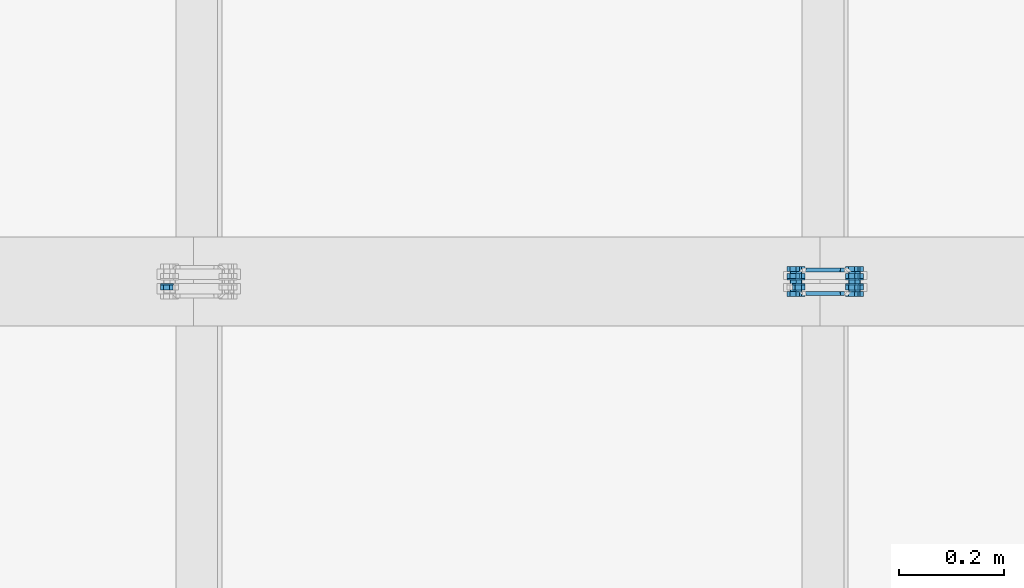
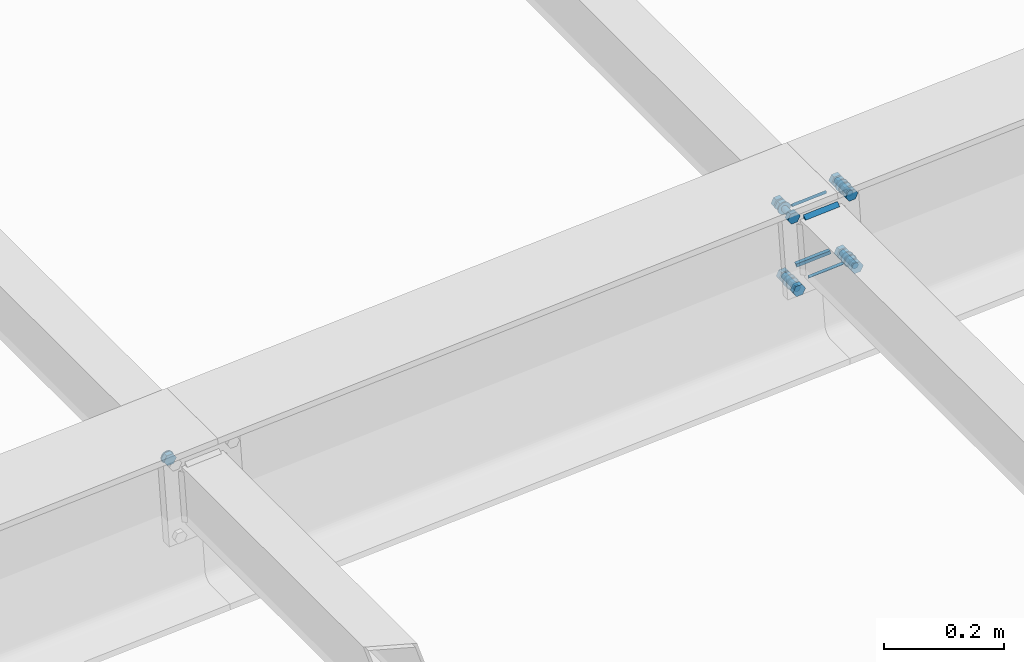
# One storey, part 59 of 72: 31 mechanical fasteners, 8 fasteners.
"""IFC4 building model written with IfcOpenShell, lengths in metres."""

from ifc_helpers import new_model, si_unit, frame, origin_with_axes, place, context, project, spatial, polyline, outline, extrude, type_object, element, save


model = new_model("IFC4")

# Units and contexts
model_context = context("Model", 3, precision=1e-05, world=origin_with_axes())
ifc_project = project(units=[si_unit("LENGTHUNIT", "METRE"), si_unit("AREAUNIT", "SQUARE_METRE"), si_unit("VOLUMEUNIT", "CUBIC_METRE"), si_unit("MASSUNIT", "GRAM", prefix="KILO"), si_unit("TIMEUNIT", "SECOND"), si_unit("PLANEANGLEUNIT", "RADIAN"), si_unit("SOLIDANGLEUNIT", "STERADIAN"), si_unit("THERMODYNAMICTEMPERATUREUNIT", "DEGREE_CELSIUS")], contexts=[model_context])

# Site, building, storey
placement_1 = place(None, origin_with_axes())
site = spatial("IfcSite", under=ifc_project, at=placement_1, Name="Italia", CompositionType="ELEMENT")
building = spatial("IfcBuilding", under=site, at=placement_1, Name="Pensilina", CompositionType="ELEMENT")
storey = spatial("IfcBuildingStorey", under=building, at=placement_1, Name="Storey 0", CompositionType="ELEMENT", Elevation=0.0)

# Mechanical fasteners
mechanical_fastener_type_1 = type_object("IfcMechanicalFastenerType", Name="Collegamento 0304_0305", PredefinedType="BOLT")
placement_2 = place(placement_1, origin_with_axes())
mechanical_fastener_1_placement = place(placement_2, origin_with_axes())
element("IfcMechanicalFastener", 1, at=mechanical_fastener_1_placement, inside=storey, type_object=mechanical_fastener_type_1, Name="Collegamento 0304_0305", NominalDiameter=0.0119999, context=model_context, shape_type="SweptSolid", body=[
    extrude(outline(polyline([(0.0, 0.0, 0.0), (-0.0119727, 0.000808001, 0.0), (-0.0172596, 0.0115805, 0.0), (-0.0105736, 0.0215454, 0.0), (0.00139928, 0.0207376, 0.0), (0.00668597, 0.00996494, 0.0), (0.0, 0.0, 0.0)])), frame((2.15199, 15.8244, 3.84012), z_axis=(0.0, 1.0, 0.0), x_axis=(-1.0, 0.0, 0.0)), (0.0, 0.0, 1.0), 0.00959969),
])
mechanical_fastener_type_2 = type_object("IfcMechanicalFastenerType", Name="Collegamento 0304_0305", PredefinedType="BOLT")
mechanical_fastener_2_placement = place(placement_2, origin_with_axes())
element("IfcMechanicalFastener", 2, at=mechanical_fastener_2_placement, inside=storey, type_object=mechanical_fastener_type_2, Name="Collegamento 0304_0305", NominalDiameter=0.024, context=model_context, shape_type="SweptSolid", body=[
    extrude(outline(polyline([(0.0, 0.0, 0.0), (-0.000408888, -0.00310588, 0.0), (-0.00160789, -0.00600004, 0.0), (-0.00351477, -0.00848532, 0.0), (-0.00600004, -0.0103922, 0.0), (-0.00889421, -0.0115912, 0.0), (-0.0120001, -0.0120001, 0.0), (-0.015106, -0.0115912, 0.0), (-0.0180001, -0.0103922, 0.0), (-0.0204854, -0.00848532, 0.0), (-0.0223923, -0.00600004, 0.0), (-0.0235913, -0.00310588, 0.0), (-0.0240002, 0.0, 0.0), (-0.0235913, 0.00310588, 0.0), (-0.0223923, 0.00600004, 0.0), (-0.0204854, 0.00848532, 0.0), (-0.0180001, 0.0103922, 0.0), (-0.015106, 0.0115912, 0.0), (-0.0120001, 0.0120001, 0.0), (-0.00889421, 0.0115912, 0.0), (-0.00600004, 0.0103922, 0.0), (-0.00351477, 0.00848532, 0.0), (-0.00160789, 0.00600004, 0.0), (-0.000408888, 0.00310588, 0.0), (0.0, 0.0, 0.0)])), frame((2.14528, 15.834, 3.85089), z_axis=(0.0, 1.0, 0.0), x_axis=(-1.0, 0.0, 0.0)), (0.0, 0.0, 1.0), 0.00199986),
])

# Fasteners
fastener_type_1 = type_object("IfcFastenerType", Name="Collegamento 0404_0403", PredefinedType="WELD")
fastener_1_placement = place(placement_2, origin_with_axes())
element("IfcFastener", 3, at=fastener_1_placement, inside=storey, type_object=fastener_type_1, Name="Collegamento 0404_0403", context=model_context, shape_type="SweptSolid", body=[
    extrude(outline(polyline([(0.0, 0.0, 0.0), (0.00717354, -0.00695825, 0.0), (0.0, -0.00695825, 0.0), (0.0, 0.0, 0.0)])), frame((3.44387, 15.8211, 3.93006), z_axis=(-0.997731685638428, 0.0, -0.067316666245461), x_axis=(0.0, -1.0, 0.0)), (0.0, 0.0, 1.0), 0.0660996),
])
fastener_type_2 = type_object("IfcFastenerType", Name="Collegamento 0404_0403", PredefinedType="WELD")
fastener_2_placement = place(placement_2, origin_with_axes())
element("IfcFastener", 4, at=fastener_2_placement, inside=storey, type_object=fastener_type_2, Name="Collegamento 0404_0403", context=model_context, shape_type="SweptSolid", body=[
    extrude(outline(polyline([(0.0, 0.0, 0.0), (-0.00717354, 0.00695801, 0.0), (0.0, 0.00695801, 0.0), (0.0, 0.0, 0.0)])), frame((3.38693, 15.8211, 3.79209), z_axis=(0.997731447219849, 0.0, 0.067320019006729), x_axis=(0.0, 1.0, 0.0)), (0.0, 0.0, 1.0), 0.0660999),
])
fastener_type_3 = type_object("IfcFastenerType", Name="Collegamento 0404_0403", PredefinedType="WELD")
fastener_3_placement = place(placement_2, origin_with_axes())
element("IfcFastener", 5, at=fastener_3_placement, inside=storey, type_object=fastener_type_3, Name="Collegamento 0404_0403", context=model_context, shape_type="SweptSolid", body=[
    extrude(outline(polyline([(0.0, 0.0, 0.0), (0.00717354, -0.00695825, 0.0), (0.0, -0.00695825, 0.0), (0.0, 0.0, 0.0)])), frame((3.44387, 15.8211, 3.93006), z_axis=(-0.997731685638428, 0.0, -0.067316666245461), x_axis=(0.0, -1.0, 0.0)), (0.0, 0.0, 1.0), 0.0660996),
])
fastener_type_4 = type_object("IfcFastenerType", Name="Collegamento 0404_0403", PredefinedType="WELD")
fastener_4_placement = place(placement_2, origin_with_axes())
element("IfcFastener", 6, at=fastener_4_placement, inside=storey, type_object=fastener_type_4, Name="Collegamento 0404_0403", context=model_context, shape_type="SweptSolid", body=[
    extrude(outline(polyline([(0.0, 0.0, 0.0), (-0.00717354, 0.00695801, 0.0), (0.0, 0.00695801, 0.0), (0.0, 0.0, 0.0)])), frame((3.38693, 15.8211, 3.79209), z_axis=(0.997731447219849, 0.0, 0.067320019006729), x_axis=(0.0, 1.0, 0.0)), (0.0, 0.0, 1.0), 0.0660999),
])

# Mechanical fasteners
mechanical_fastener_type_3 = type_object("IfcMechanicalFastenerType", Name="Collegamento 0404_0403", PredefinedType="BOLT")
mechanical_fastener_3_placement = place(placement_2, origin_with_axes())
element("IfcMechanicalFastener", 7, at=mechanical_fastener_3_placement, inside=storey, type_object=mechanical_fastener_type_3, Name="Collegamento 0404_0403", NominalDiameter=0.0119998, context=model_context, shape_type="SweptSolid", body=[
    extrude(outline(polyline([(0.0, 0.0, 0.0), (-0.0119729, -0.000808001, 0.0), (-0.0186589, 0.00915694, 0.0), (-0.0133719, 0.0199296, 0.0), (-0.00139928, 0.0207374, 0.0), (0.00528669, 0.0107725, 0.0), (0.0, 0.0, 0.0)])), frame((3.37133, 15.821, 3.77151), z_axis=(0.0, -1.0, 0.0), x_axis=(1.0, 0.0, 0.0)), (0.0, 0.0, 1.0), 0.00959969),
])
mechanical_fastener_type_4 = type_object("IfcMechanicalFastenerType", Name="Collegamento 0404_0403", PredefinedType="BOLT")
mechanical_fastener_4_placement = place(placement_2, origin_with_axes())
element("IfcMechanicalFastener", 8, at=mechanical_fastener_4_placement, inside=storey, type_object=mechanical_fastener_type_4, Name="Collegamento 0404_0403", NominalDiameter=0.012, context=model_context, shape_type="SweptSolid", body=[
    extrude(outline(polyline([(0.0, 0.0, 0.0), (-0.000204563, -0.00155282, 0.0), (-0.000803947, -0.00300002, 0.0), (-0.00175738, -0.00424266, 0.0), (-0.00300002, -0.00519609, 0.0), (-0.00444722, -0.00579548, 0.0), (-0.00600004, -0.00600004, 0.0), (-0.00755286, -0.00579548, 0.0), (-0.00900006, -0.00519609, 0.0), (-0.0102427, -0.00424266, 0.0), (-0.0111961, -0.00300002, 0.0), (-0.0117955, -0.00155282, 0.0), (-0.0120001, 0.0, 0.0), (-0.0117955, 0.00155282, 0.0), (-0.0111961, 0.00300002, 0.0), (-0.0102427, 0.00424266, 0.0), (-0.00900006, 0.00519609, 0.0), (-0.00755286, 0.00579548, 0.0), (-0.00600004, 0.00600004, 0.0), (-0.00444722, 0.00579548, 0.0), (-0.00300002, 0.00519609, 0.0), (-0.00175738, 0.00424266, 0.0), (-0.000803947, 0.00300002, 0.0), (-0.000204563, 0.00155282, 0.0), (0.0, 0.0, 0.0)])), frame((3.37064, 15.862, 3.78148), z_axis=(0.0, -1.0, 0.0), x_axis=(1.0, 0.0, 0.0)), (0.0, 0.0, 1.0), 0.0410004),
])
mechanical_fastener_type_5 = type_object("IfcMechanicalFastenerType", Name="Collegamento 0404_0403", PredefinedType="BOLT")
mechanical_fastener_5_placement = place(placement_2, origin_with_axes())
element("IfcMechanicalFastener", 9, at=mechanical_fastener_5_placement, inside=storey, type_object=mechanical_fastener_type_5, Name="Collegamento 0404_0403", NominalDiameter=0.0119998, context=model_context, shape_type="SweptSolid", body=[
    extrude(outline(polyline([(0.0, 0.0, 0.0), (-0.0119729, -0.000808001, 0.0), (-0.0186589, 0.00915694, 0.0), (-0.0133719, 0.0199296, 0.0), (-0.00139928, 0.0207374, 0.0), (0.00528669, 0.0107725, 0.0), (0.0, 0.0, 0.0)])), frame((3.37133, 15.8556, 3.77151), z_axis=(0.0, -1.0, 0.0), x_axis=(1.0, 0.0, 0.0)), (0.0, 0.0, 1.0), 0.00959969),
])
mechanical_fastener_type_6 = type_object("IfcMechanicalFastenerType", Name="Collegamento 0404_0403", PredefinedType="BOLT")
mechanical_fastener_6_placement = place(placement_2, origin_with_axes())
element("IfcMechanicalFastener", 10, at=mechanical_fastener_6_placement, inside=storey, type_object=mechanical_fastener_type_6, Name="Collegamento 0404_0403", NominalDiameter=0.024, context=model_context, shape_type="SweptSolid", body=[
    extrude(outline(polyline([(0.0, 0.0, 0.0), (-0.000408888, -0.00310588, 0.0), (-0.00160789, -0.00600004, 0.0), (-0.00351477, -0.00848532, 0.0), (-0.00600004, -0.0103922, 0.0), (-0.00889421, -0.0115912, 0.0), (-0.0120001, -0.0120001, 0.0), (-0.015106, -0.0115912, 0.0), (-0.0180001, -0.0103922, 0.0), (-0.0204854, -0.00848532, 0.0), (-0.0223923, -0.00600004, 0.0), (-0.0235913, -0.00310588, 0.0), (-0.0240002, 0.0, 0.0), (-0.0235913, 0.00310588, 0.0), (-0.0223923, 0.00600004, 0.0), (-0.0204854, 0.00848532, 0.0), (-0.0180001, 0.0103922, 0.0), (-0.015106, 0.0115912, 0.0), (-0.0120001, 0.0120001, 0.0), (-0.00889421, 0.0115912, 0.0), (-0.00600004, 0.0103922, 0.0), (-0.00351477, 0.00848532, 0.0), (-0.00160789, 0.00600004, 0.0), (-0.000408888, 0.00310588, 0.0), (0.0, 0.0, 0.0)])), frame((3.37664, 15.846, 3.78148), z_axis=(0.0, -1.0, 0.0), x_axis=(1.0, 0.0, 0.0)), (0.0, 0.0, 1.0), 0.00199986),
])
mechanical_fastener_type_7 = type_object("IfcMechanicalFastenerType", Name="Collegamento 0404_0403", PredefinedType="BOLT")
mechanical_fastener_7_placement = place(placement_2, origin_with_axes())
element("IfcMechanicalFastener", 11, at=mechanical_fastener_7_placement, inside=storey, type_object=mechanical_fastener_type_7, Name="Collegamento 0404_0403", NominalDiameter=0.0119998, context=model_context, shape_type="SweptSolid", body=[
    extrude(outline(polyline([(0.0, 0.0, 0.0), (-0.0119727, -0.000807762, 0.0), (-0.0186586, 0.00915718, 0.0), (-0.0133719, 0.0199296, 0.0), (-0.00139904, 0.0207376, 0.0), (0.00528693, 0.0107727, 0.0), (0.0, 0.0, 0.0)])), frame((3.48307, 15.821, 3.77905), z_axis=(0.0, -1.0, 0.0), x_axis=(1.0, 0.0, 0.0)), (0.0, 0.0, 1.0), 0.00959969),
])
mechanical_fastener_type_8 = type_object("IfcMechanicalFastenerType", Name="Collegamento 0404_0403", PredefinedType="BOLT")
mechanical_fastener_8_placement = place(placement_2, origin_with_axes())
element("IfcMechanicalFastener", 12, at=mechanical_fastener_8_placement, inside=storey, type_object=mechanical_fastener_type_8, Name="Collegamento 0404_0403", NominalDiameter=0.012, context=model_context, shape_type="SweptSolid", body=[
    extrude(outline(polyline([(0.0, 0.0, 0.0), (-0.000204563, -0.00155282, 0.0), (-0.000803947, -0.00300002, 0.0), (-0.00175738, -0.00424266, 0.0), (-0.00300002, -0.00519609, 0.0), (-0.00444722, -0.00579548, 0.0), (-0.00600004, -0.00600004, 0.0), (-0.00755286, -0.00579548, 0.0), (-0.00900006, -0.00519609, 0.0), (-0.0102427, -0.00424266, 0.0), (-0.0111961, -0.00300002, 0.0), (-0.0117955, -0.00155282, 0.0), (-0.0120001, 0.0, 0.0), (-0.0117955, 0.00155282, 0.0), (-0.0111961, 0.00300002, 0.0), (-0.0102427, 0.00424266, 0.0), (-0.00900006, 0.00519609, 0.0), (-0.00755286, 0.00579548, 0.0), (-0.00600004, 0.00600004, 0.0), (-0.00444722, 0.00579548, 0.0), (-0.00300002, 0.00519609, 0.0), (-0.00175738, 0.00424266, 0.0), (-0.000803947, 0.00300002, 0.0), (-0.000204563, 0.00155282, 0.0), (0.0, 0.0, 0.0)])), frame((3.48239, 15.862, 3.78902), z_axis=(0.0, -1.0, 0.0), x_axis=(1.0, 0.0, 0.0)), (0.0, 0.0, 1.0), 0.0410004),
])
mechanical_fastener_type_9 = type_object("IfcMechanicalFastenerType", Name="Collegamento 0404_0403", PredefinedType="BOLT")
mechanical_fastener_9_placement = place(placement_2, origin_with_axes())
element("IfcMechanicalFastener", 13, at=mechanical_fastener_9_placement, inside=storey, type_object=mechanical_fastener_type_9, Name="Collegamento 0404_0403", NominalDiameter=0.0119998, context=model_context, shape_type="SweptSolid", body=[
    extrude(outline(polyline([(0.0, 0.0, 0.0), (-0.0119727, -0.000807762, 0.0), (-0.0186586, 0.00915718, 0.0), (-0.0133719, 0.0199296, 0.0), (-0.00139904, 0.0207376, 0.0), (0.00528693, 0.0107727, 0.0), (0.0, 0.0, 0.0)])), frame((3.48307, 15.8556, 3.77905), z_axis=(0.0, -1.0, 0.0), x_axis=(1.0, 0.0, 0.0)), (0.0, 0.0, 1.0), 0.00959969),
])
mechanical_fastener_type_10 = type_object("IfcMechanicalFastenerType", Name="Collegamento 0404_0403", PredefinedType="BOLT")
mechanical_fastener_10_placement = place(placement_2, origin_with_axes())
element("IfcMechanicalFastener", 14, at=mechanical_fastener_10_placement, inside=storey, type_object=mechanical_fastener_type_10, Name="Collegamento 0404_0403", NominalDiameter=0.024, context=model_context, shape_type="SweptSolid", body=[
    extrude(outline(polyline([(0.0, 0.0, 0.0), (-0.000408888, -0.00310588, 0.0), (-0.00160789, -0.00600004, 0.0), (-0.00351477, -0.00848532, 0.0), (-0.00600004, -0.0103922, 0.0), (-0.00889421, -0.0115912, 0.0), (-0.0120001, -0.0120001, 0.0), (-0.015106, -0.0115912, 0.0), (-0.0180001, -0.0103922, 0.0), (-0.0204854, -0.00848532, 0.0), (-0.0223923, -0.00600004, 0.0), (-0.0235913, -0.00310588, 0.0), (-0.0240002, 0.0, 0.0), (-0.0235913, 0.00310588, 0.0), (-0.0223923, 0.00600004, 0.0), (-0.0204854, 0.00848532, 0.0), (-0.0180001, 0.0103922, 0.0), (-0.015106, 0.0115912, 0.0), (-0.0120001, 0.0120001, 0.0), (-0.00889421, 0.0115912, 0.0), (-0.00600004, 0.0103922, 0.0), (-0.00351477, 0.00848532, 0.0), (-0.00160789, 0.00600004, 0.0), (-0.000408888, 0.00310588, 0.0), (0.0, 0.0, 0.0)])), frame((3.48839, 15.846, 3.78902), z_axis=(0.0, -1.0, 0.0), x_axis=(1.0, 0.0, 0.0)), (0.0, 0.0, 1.0), 0.00199986),
])
mechanical_fastener_type_11 = type_object("IfcMechanicalFastenerType", Name="Collegamento 0404_0403", PredefinedType="BOLT")
mechanical_fastener_11_placement = place(placement_2, origin_with_axes())
element("IfcMechanicalFastener", 15, at=mechanical_fastener_11_placement, inside=storey, type_object=mechanical_fastener_type_11, Name="Collegamento 0404_0403", NominalDiameter=0.0119998, context=model_context, shape_type="SweptSolid", body=[
    extrude(outline(polyline([(0.0, 0.0, 0.0), (-0.0119729, -0.000808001, 0.0), (-0.0186589, 0.00915694, 0.0), (-0.0133719, 0.0199296, 0.0), (-0.00139928, 0.0207374, 0.0), (0.00528669, 0.0107725, 0.0), (0.0, 0.0, 0.0)])), frame((3.3611, 15.821, 3.92317), z_axis=(0.0, -1.0, 0.0), x_axis=(1.0, 0.0, 0.0)), (0.0, 0.0, 1.0), 0.00959969),
])
mechanical_fastener_type_12 = type_object("IfcMechanicalFastenerType", Name="Collegamento 0404_0403", PredefinedType="BOLT")
mechanical_fastener_12_placement = place(placement_2, origin_with_axes())
element("IfcMechanicalFastener", 16, at=mechanical_fastener_12_placement, inside=storey, type_object=mechanical_fastener_type_12, Name="Collegamento 0404_0403", NominalDiameter=0.012, context=model_context, shape_type="SweptSolid", body=[
    extrude(outline(polyline([(0.0, 0.0, 0.0), (-0.000204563, -0.00155282, 0.0), (-0.000803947, -0.00300002, 0.0), (-0.00175738, -0.00424266, 0.0), (-0.00300002, -0.00519609, 0.0), (-0.00444722, -0.00579548, 0.0), (-0.00600004, -0.00600004, 0.0), (-0.00755286, -0.00579548, 0.0), (-0.00900006, -0.00519609, 0.0), (-0.0102427, -0.00424266, 0.0), (-0.0111961, -0.00300002, 0.0), (-0.0117955, -0.00155282, 0.0), (-0.0120001, 0.0, 0.0), (-0.0117955, 0.00155282, 0.0), (-0.0111961, 0.00300002, 0.0), (-0.0102427, 0.00424266, 0.0), (-0.00900006, 0.00519609, 0.0), (-0.00755286, 0.00579548, 0.0), (-0.00600004, 0.00600004, 0.0), (-0.00444722, 0.00579548, 0.0), (-0.00300002, 0.00519609, 0.0), (-0.00175738, 0.00424266, 0.0), (-0.000803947, 0.00300002, 0.0), (-0.000204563, 0.00155282, 0.0), (0.0, 0.0, 0.0)])), frame((3.36041, 15.862, 3.93313), z_axis=(0.0, -1.0, 0.0), x_axis=(1.0, 0.0, 0.0)), (0.0, 0.0, 1.0), 0.0410004),
])
mechanical_fastener_type_13 = type_object("IfcMechanicalFastenerType", Name="Collegamento 0404_0403", PredefinedType="BOLT")
mechanical_fastener_13_placement = place(placement_2, origin_with_axes())
element("IfcMechanicalFastener", 17, at=mechanical_fastener_13_placement, inside=storey, type_object=mechanical_fastener_type_13, Name="Collegamento 0404_0403", NominalDiameter=0.0119998, context=model_context, shape_type="SweptSolid", body=[
    extrude(outline(polyline([(0.0, 0.0, 0.0), (-0.0119729, -0.000808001, 0.0), (-0.0186589, 0.00915694, 0.0), (-0.0133719, 0.0199296, 0.0), (-0.00139928, 0.0207374, 0.0), (0.00528669, 0.0107725, 0.0), (0.0, 0.0, 0.0)])), frame((3.3611, 15.8556, 3.92317), z_axis=(0.0, -1.0, 0.0), x_axis=(1.0, 0.0, 0.0)), (0.0, 0.0, 1.0), 0.00959969),
])
mechanical_fastener_type_14 = type_object("IfcMechanicalFastenerType", Name="Collegamento 0404_0403", PredefinedType="BOLT")
mechanical_fastener_14_placement = place(placement_2, origin_with_axes())
element("IfcMechanicalFastener", 18, at=mechanical_fastener_14_placement, inside=storey, type_object=mechanical_fastener_type_14, Name="Collegamento 0404_0403", NominalDiameter=0.024, context=model_context, shape_type="SweptSolid", body=[
    extrude(outline(polyline([(0.0, 0.0, 0.0), (-0.000408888, -0.00310588, 0.0), (-0.00160789, -0.00600004, 0.0), (-0.00351477, -0.00848532, 0.0), (-0.00600004, -0.0103922, 0.0), (-0.00889421, -0.0115912, 0.0), (-0.0120001, -0.0120001, 0.0), (-0.015106, -0.0115912, 0.0), (-0.0180001, -0.0103922, 0.0), (-0.0204854, -0.00848532, 0.0), (-0.0223923, -0.00600004, 0.0), (-0.0235913, -0.00310588, 0.0), (-0.0240002, 0.0, 0.0), (-0.0235913, 0.00310588, 0.0), (-0.0223923, 0.00600004, 0.0), (-0.0204854, 0.00848532, 0.0), (-0.0180001, 0.0103922, 0.0), (-0.015106, 0.0115912, 0.0), (-0.0120001, 0.0120001, 0.0), (-0.00889421, 0.0115912, 0.0), (-0.00600004, 0.0103922, 0.0), (-0.00351477, 0.00848532, 0.0), (-0.00160789, 0.00600004, 0.0), (-0.000408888, 0.00310588, 0.0), (0.0, 0.0, 0.0)])), frame((3.36641, 15.846, 3.93313), z_axis=(0.0, -1.0, 0.0), x_axis=(1.0, 0.0, 0.0)), (0.0, 0.0, 1.0), 0.00199986),
])
mechanical_fastener_type_15 = type_object("IfcMechanicalFastenerType", Name="Collegamento 0404_0403", PredefinedType="BOLT")
mechanical_fastener_15_placement = place(placement_2, origin_with_axes())
element("IfcMechanicalFastener", 19, at=mechanical_fastener_15_placement, inside=storey, type_object=mechanical_fastener_type_15, Name="Collegamento 0404_0403", NominalDiameter=0.0119998, context=model_context, shape_type="SweptSolid", body=[
    extrude(outline(polyline([(0.0, 0.0, 0.0), (-0.0119727, -0.000808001, 0.0), (-0.0186586, 0.00915694, 0.0), (-0.0133719, 0.0199294, 0.0), (-0.00139904, 0.0207374, 0.0), (0.00528693, 0.0107725, 0.0), (0.0, 0.0, 0.0)])), frame((3.47284, 15.821, 3.93071), z_axis=(0.0, -1.0, 0.0), x_axis=(1.0, 0.0, 0.0)), (0.0, 0.0, 1.0), 0.00959969),
])
mechanical_fastener_type_16 = type_object("IfcMechanicalFastenerType", Name="Collegamento 0404_0403", PredefinedType="BOLT")
mechanical_fastener_16_placement = place(placement_2, origin_with_axes())
element("IfcMechanicalFastener", 20, at=mechanical_fastener_16_placement, inside=storey, type_object=mechanical_fastener_type_16, Name="Collegamento 0404_0403", NominalDiameter=0.012, context=model_context, shape_type="SweptSolid", body=[
    extrude(outline(polyline([(0.0, 0.0, 0.0), (-0.000204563, -0.00155282, 0.0), (-0.000803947, -0.00300002, 0.0), (-0.00175738, -0.00424266, 0.0), (-0.00300002, -0.00519609, 0.0), (-0.00444722, -0.00579548, 0.0), (-0.00600004, -0.00600004, 0.0), (-0.00755286, -0.00579548, 0.0), (-0.00900006, -0.00519609, 0.0), (-0.0102427, -0.00424266, 0.0), (-0.0111961, -0.00300002, 0.0), (-0.0117955, -0.00155282, 0.0), (-0.0120001, 0.0, 0.0), (-0.0117955, 0.00155282, 0.0), (-0.0111961, 0.00300002, 0.0), (-0.0102427, 0.00424266, 0.0), (-0.00900006, 0.00519609, 0.0), (-0.00755286, 0.00579548, 0.0), (-0.00600004, 0.00600004, 0.0), (-0.00444722, 0.00579548, 0.0), (-0.00300002, 0.00519609, 0.0), (-0.00175738, 0.00424266, 0.0), (-0.000803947, 0.00300002, 0.0), (-0.000204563, 0.00155282, 0.0), (0.0, 0.0, 0.0)])), frame((3.47216, 15.862, 3.94067), z_axis=(0.0, -1.0, 0.0), x_axis=(1.0, 0.0, 0.0)), (0.0, 0.0, 1.0), 0.0410004),
])
mechanical_fastener_type_17 = type_object("IfcMechanicalFastenerType", Name="Collegamento 0404_0403", PredefinedType="BOLT")
mechanical_fastener_17_placement = place(placement_2, origin_with_axes())
element("IfcMechanicalFastener", 21, at=mechanical_fastener_17_placement, inside=storey, type_object=mechanical_fastener_type_17, Name="Collegamento 0404_0403", NominalDiameter=0.0119998, context=model_context, shape_type="SweptSolid", body=[
    extrude(outline(polyline([(0.0, 0.0, 0.0), (-0.0119727, -0.000808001, 0.0), (-0.0186586, 0.00915694, 0.0), (-0.0133719, 0.0199294, 0.0), (-0.00139904, 0.0207374, 0.0), (0.00528693, 0.0107725, 0.0), (0.0, 0.0, 0.0)])), frame((3.47284, 15.8556, 3.93071), z_axis=(0.0, -1.0, 0.0), x_axis=(1.0, 0.0, 0.0)), (0.0, 0.0, 1.0), 0.00959969),
])
mechanical_fastener_type_18 = type_object("IfcMechanicalFastenerType", Name="Collegamento 0404_0403", PredefinedType="BOLT")
mechanical_fastener_18_placement = place(placement_2, origin_with_axes())
element("IfcMechanicalFastener", 22, at=mechanical_fastener_18_placement, inside=storey, type_object=mechanical_fastener_type_18, Name="Collegamento 0404_0403", NominalDiameter=0.024, context=model_context, shape_type="SweptSolid", body=[
    extrude(outline(polyline([(0.0, 0.0, 0.0), (-0.000408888, -0.00310588, 0.0), (-0.00160789, -0.00600004, 0.0), (-0.00351477, -0.00848532, 0.0), (-0.00600004, -0.0103922, 0.0), (-0.00889421, -0.0115912, 0.0), (-0.0120001, -0.0120001, 0.0), (-0.015106, -0.0115912, 0.0), (-0.0180001, -0.0103922, 0.0), (-0.0204854, -0.00848532, 0.0), (-0.0223923, -0.00600004, 0.0), (-0.0235913, -0.00310588, 0.0), (-0.0240002, 0.0, 0.0), (-0.0235913, 0.00310588, 0.0), (-0.0223923, 0.00600004, 0.0), (-0.0204854, 0.00848532, 0.0), (-0.0180001, 0.0103922, 0.0), (-0.015106, 0.0115912, 0.0), (-0.0120001, 0.0120001, 0.0), (-0.00889421, 0.0115912, 0.0), (-0.00600004, 0.0103922, 0.0), (-0.00351477, 0.00848532, 0.0), (-0.00160789, 0.00600004, 0.0), (-0.000408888, 0.00310588, 0.0), (0.0, 0.0, 0.0)])), frame((3.47816, 15.846, 3.94067), z_axis=(0.0, -1.0, 0.0), x_axis=(1.0, 0.0, 0.0)), (0.0, 0.0, 1.0), 0.00199986),
])

# Fasteners
fastener_type_5 = type_object("IfcFastenerType", Name="Collegamento 0404_0405", PredefinedType="WELD")
fastener_5_placement = place(placement_2, origin_with_axes())
element("IfcFastener", 23, at=fastener_5_placement, inside=storey, type_object=fastener_type_5, Name="Collegamento 0404_0405", context=model_context, shape_type="SweptSolid", body=[
    extrude(outline(polyline([(0.0, 0.0, 0.0), (0.00717354, -0.00695801, 0.0), (0.0, -0.00695801, 0.0), (0.0, 0.0, 0.0)])), frame((3.37792, 15.8589, 3.92561), z_axis=(0.997731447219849, 0.0, 0.067320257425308), x_axis=(0.0, 1.0, 0.0)), (0.0, 0.0, 1.0), 0.0660996),
])
fastener_type_6 = type_object("IfcFastenerType", Name="Collegamento 0404_0405", PredefinedType="WELD")
fastener_6_placement = place(placement_2, origin_with_axes())
element("IfcFastener", 24, at=fastener_6_placement, inside=storey, type_object=fastener_type_6, Name="Collegamento 0404_0405", context=model_context, shape_type="SweptSolid", body=[
    extrude(outline(polyline([(0.0, 0.0, 0.0), (-0.00717354, 0.00695825, 0.0), (0.0, 0.00695825, 0.0), (0.0, 0.0, 0.0)])), frame((3.45288, 15.8589, 3.79654), z_axis=(-0.997731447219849, 0.0, -0.067320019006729), x_axis=(0.0, -1.0, 0.0)), (0.0, 0.0, 1.0), 0.0660999),
])
fastener_type_7 = type_object("IfcFastenerType", Name="Collegamento 0404_0405", PredefinedType="WELD")
fastener_7_placement = place(placement_2, origin_with_axes())
element("IfcFastener", 25, at=fastener_7_placement, inside=storey, type_object=fastener_type_7, Name="Collegamento 0404_0405", context=model_context, shape_type="SweptSolid", body=[
    extrude(outline(polyline([(0.0, 0.0, 0.0), (0.00717354, -0.00695801, 0.0), (0.0, -0.00695801, 0.0), (0.0, 0.0, 0.0)])), frame((3.37792, 15.8589, 3.92561), z_axis=(0.997731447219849, 0.0, 0.067320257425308), x_axis=(0.0, 1.0, 0.0)), (0.0, 0.0, 1.0), 0.0660996),
])
fastener_type_8 = type_object("IfcFastenerType", Name="Collegamento 0404_0405", PredefinedType="WELD")
fastener_8_placement = place(placement_2, origin_with_axes())
element("IfcFastener", 26, at=fastener_8_placement, inside=storey, type_object=fastener_type_8, Name="Collegamento 0404_0405", context=model_context, shape_type="SweptSolid", body=[
    extrude(outline(polyline([(0.0, 0.0, 0.0), (-0.00717354, 0.00695825, 0.0), (0.0, 0.00695825, 0.0), (0.0, 0.0, 0.0)])), frame((3.45288, 15.8589, 3.79654), z_axis=(-0.997731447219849, 0.0, -0.067320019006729), x_axis=(0.0, -1.0, 0.0)), (0.0, 0.0, 1.0), 0.0660999),
])

# Mechanical fasteners
mechanical_fastener_type_19 = type_object("IfcMechanicalFastenerType", Name="Collegamento 0404_0405", PredefinedType="BOLT")
mechanical_fastener_19_placement = place(placement_2, origin_with_axes())
element("IfcMechanicalFastener", 27, at=mechanical_fastener_19_placement, inside=storey, type_object=mechanical_fastener_type_19, Name="Collegamento 0404_0405", NominalDiameter=0.0119998, context=model_context, shape_type="SweptSolid", body=[
    extrude(outline(polyline([(0.0, 0.0, 0.0), (-0.0119727, 0.000807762, 0.0), (-0.0172596, 0.0115805, 0.0), (-0.0105736, 0.0215454, 0.0), (0.00139928, 0.0207374, 0.0), (0.00668597, 0.00996494, 0.0), (0.0, 0.0, 0.0)])), frame((3.4711, 15.859, 3.77825), z_axis=(0.0, 1.0, 0.0), x_axis=(-1.0, 0.0, 0.0)), (0.0, 0.0, 1.0), 0.00959969),
])
mechanical_fastener_type_20 = type_object("IfcMechanicalFastenerType", Name="Collegamento 0404_0405", PredefinedType="BOLT")
mechanical_fastener_20_placement = place(placement_2, origin_with_axes())
element("IfcMechanicalFastener", 28, at=mechanical_fastener_20_placement, inside=storey, type_object=mechanical_fastener_type_20, Name="Collegamento 0404_0405", NominalDiameter=0.012, context=model_context, shape_type="SweptSolid", body=[
    extrude(outline(polyline([(0.0, 0.0, 0.0), (-0.000204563, -0.00155282, 0.0), (-0.000803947, -0.00300002, 0.0), (-0.00175738, -0.00424266, 0.0), (-0.00300002, -0.00519609, 0.0), (-0.00444722, -0.00579548, 0.0), (-0.00600004, -0.00600004, 0.0), (-0.00755286, -0.00579548, 0.0), (-0.00900006, -0.00519609, 0.0), (-0.0102427, -0.00424266, 0.0), (-0.0111961, -0.00300002, 0.0), (-0.0117955, -0.00155282, 0.0), (-0.0120001, 0.0, 0.0), (-0.0117955, 0.00155282, 0.0), (-0.0111961, 0.00300002, 0.0), (-0.0102427, 0.00424266, 0.0), (-0.00900006, 0.00519609, 0.0), (-0.00755286, 0.00579548, 0.0), (-0.00600004, 0.00600004, 0.0), (-0.00444722, 0.00579548, 0.0), (-0.00300002, 0.00519609, 0.0), (-0.00175738, 0.00424266, 0.0), (-0.000803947, 0.00300002, 0.0), (-0.000204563, 0.00155282, 0.0), (0.0, 0.0, 0.0)])), frame((3.47039, 15.818, 3.78902), z_axis=(0.0, 1.0, 0.0), x_axis=(-1.0, 0.0, 0.0)), (0.0, 0.0, 1.0), 0.0410004),
])
mechanical_fastener_type_21 = type_object("IfcMechanicalFastenerType", Name="Collegamento 0404_0405", PredefinedType="BOLT")
mechanical_fastener_21_placement = place(placement_2, origin_with_axes())
element("IfcMechanicalFastener", 29, at=mechanical_fastener_21_placement, inside=storey, type_object=mechanical_fastener_type_21, Name="Collegamento 0404_0405", NominalDiameter=0.0119998, context=model_context, shape_type="SweptSolid", body=[
    extrude(outline(polyline([(0.0, 0.0, 0.0), (-0.0119727, 0.000807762, 0.0), (-0.0172596, 0.0115805, 0.0), (-0.0105736, 0.0215454, 0.0), (0.00139928, 0.0207374, 0.0), (0.00668597, 0.00996494, 0.0), (0.0, 0.0, 0.0)])), frame((3.4711, 15.8244, 3.77825), z_axis=(0.0, 1.0, 0.0), x_axis=(-1.0, 0.0, 0.0)), (0.0, 0.0, 1.0), 0.00959969),
])
mechanical_fastener_type_22 = type_object("IfcMechanicalFastenerType", Name="Collegamento 0404_0405", PredefinedType="BOLT")
mechanical_fastener_22_placement = place(placement_2, origin_with_axes())
element("IfcMechanicalFastener", 30, at=mechanical_fastener_22_placement, inside=storey, type_object=mechanical_fastener_type_22, Name="Collegamento 0404_0405", NominalDiameter=0.024, context=model_context, shape_type="SweptSolid", body=[
    extrude(outline(polyline([(0.0, 0.0, 0.0), (-0.000408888, -0.00310588, 0.0), (-0.00160789, -0.00600004, 0.0), (-0.00351477, -0.00848532, 0.0), (-0.00600004, -0.0103922, 0.0), (-0.00889421, -0.0115912, 0.0), (-0.0120001, -0.0120001, 0.0), (-0.015106, -0.0115912, 0.0), (-0.0180001, -0.0103922, 0.0), (-0.0204854, -0.00848532, 0.0), (-0.0223923, -0.00600004, 0.0), (-0.0235913, -0.00310588, 0.0), (-0.0240002, 0.0, 0.0), (-0.0235913, 0.00310588, 0.0), (-0.0223923, 0.00600004, 0.0), (-0.0204854, 0.00848532, 0.0), (-0.0180001, 0.0103922, 0.0), (-0.015106, 0.0115912, 0.0), (-0.0120001, 0.0120001, 0.0), (-0.00889421, 0.0115912, 0.0), (-0.00600004, 0.0103922, 0.0), (-0.00351477, 0.00848532, 0.0), (-0.00160789, 0.00600004, 0.0), (-0.000408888, 0.00310588, 0.0), (0.0, 0.0, 0.0)])), frame((3.46439, 15.834, 3.78902), z_axis=(0.0, 1.0, 0.0), x_axis=(-1.0, 0.0, 0.0)), (0.0, 0.0, 1.0), 0.00199986),
])
mechanical_fastener_type_23 = type_object("IfcMechanicalFastenerType", Name="Collegamento 0404_0405", PredefinedType="BOLT")
mechanical_fastener_23_placement = place(placement_2, origin_with_axes())
element("IfcMechanicalFastener", 31, at=mechanical_fastener_23_placement, inside=storey, type_object=mechanical_fastener_type_23, Name="Collegamento 0404_0405", NominalDiameter=0.0119998, context=model_context, shape_type="SweptSolid", body=[
    extrude(outline(polyline([(0.0, 0.0, 0.0), (-0.0119729, 0.000808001, 0.0), (-0.0172596, 0.0115805, 0.0), (-0.0105736, 0.0215454, 0.0), (0.00139904, 0.0207376, 0.0), (0.00668597, 0.00996494, 0.0), (0.0, 0.0, 0.0)])), frame((3.35936, 15.859, 3.77071), z_axis=(0.0, 1.0, 0.0), x_axis=(-1.0, 0.0, 0.0)), (0.0, 0.0, 1.0), 0.00959969),
])
mechanical_fastener_type_24 = type_object("IfcMechanicalFastenerType", Name="Collegamento 0404_0405", PredefinedType="BOLT")
mechanical_fastener_24_placement = place(placement_2, origin_with_axes())
element("IfcMechanicalFastener", 32, at=mechanical_fastener_24_placement, inside=storey, type_object=mechanical_fastener_type_24, Name="Collegamento 0404_0405", NominalDiameter=0.012, context=model_context, shape_type="SweptSolid", body=[
    extrude(outline(polyline([(0.0, 0.0, 0.0), (-0.000204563, -0.00155282, 0.0), (-0.000803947, -0.00300002, 0.0), (-0.00175738, -0.00424266, 0.0), (-0.00300002, -0.00519609, 0.0), (-0.00444722, -0.00579548, 0.0), (-0.00600004, -0.00600004, 0.0), (-0.00755286, -0.00579548, 0.0), (-0.00900006, -0.00519609, 0.0), (-0.0102427, -0.00424266, 0.0), (-0.0111961, -0.00300002, 0.0), (-0.0117955, -0.00155282, 0.0), (-0.0120001, 0.0, 0.0), (-0.0117955, 0.00155282, 0.0), (-0.0111961, 0.00300002, 0.0), (-0.0102427, 0.00424266, 0.0), (-0.00900006, 0.00519609, 0.0), (-0.00755286, 0.00579548, 0.0), (-0.00600004, 0.00600004, 0.0), (-0.00444722, 0.00579548, 0.0), (-0.00300002, 0.00519609, 0.0), (-0.00175738, 0.00424266, 0.0), (-0.000803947, 0.00300002, 0.0), (-0.000204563, 0.00155282, 0.0), (0.0, 0.0, 0.0)])), frame((3.35864, 15.818, 3.78148), z_axis=(0.0, 1.0, 0.0), x_axis=(-1.0, 0.0, 0.0)), (0.0, 0.0, 1.0), 0.0410004),
])
mechanical_fastener_type_25 = type_object("IfcMechanicalFastenerType", Name="Collegamento 0404_0405", PredefinedType="BOLT")
mechanical_fastener_25_placement = place(placement_2, origin_with_axes())
element("IfcMechanicalFastener", 33, at=mechanical_fastener_25_placement, inside=storey, type_object=mechanical_fastener_type_25, Name="Collegamento 0404_0405", NominalDiameter=0.0119998, context=model_context, shape_type="SweptSolid", body=[
    extrude(outline(polyline([(0.0, 0.0, 0.0), (-0.0119729, 0.000808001, 0.0), (-0.0172596, 0.0115805, 0.0), (-0.0105736, 0.0215454, 0.0), (0.00139904, 0.0207376, 0.0), (0.00668597, 0.00996494, 0.0), (0.0, 0.0, 0.0)])), frame((3.35936, 15.8244, 3.77071), z_axis=(0.0, 1.0, 0.0), x_axis=(-1.0, 0.0, 0.0)), (0.0, 0.0, 1.0), 0.00959969),
])
mechanical_fastener_type_26 = type_object("IfcMechanicalFastenerType", Name="Collegamento 0404_0405", PredefinedType="BOLT")
mechanical_fastener_26_placement = place(placement_2, origin_with_axes())
element("IfcMechanicalFastener", 34, at=mechanical_fastener_26_placement, inside=storey, type_object=mechanical_fastener_type_26, Name="Collegamento 0404_0405", NominalDiameter=0.024, context=model_context, shape_type="SweptSolid", body=[
    extrude(outline(polyline([(0.0, 0.0, 0.0), (-0.000408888, -0.00310588, 0.0), (-0.00160789, -0.00600004, 0.0), (-0.00351477, -0.00848532, 0.0), (-0.00600004, -0.0103922, 0.0), (-0.00889421, -0.0115912, 0.0), (-0.0120001, -0.0120001, 0.0), (-0.015106, -0.0115912, 0.0), (-0.0180001, -0.0103922, 0.0), (-0.0204854, -0.00848532, 0.0), (-0.0223923, -0.00600004, 0.0), (-0.0235913, -0.00310588, 0.0), (-0.0240002, 0.0, 0.0), (-0.0235913, 0.00310588, 0.0), (-0.0223923, 0.00600004, 0.0), (-0.0204854, 0.00848532, 0.0), (-0.0180001, 0.0103922, 0.0), (-0.015106, 0.0115912, 0.0), (-0.0120001, 0.0120001, 0.0), (-0.00889421, 0.0115912, 0.0), (-0.00600004, 0.0103922, 0.0), (-0.00351477, 0.00848532, 0.0), (-0.00160789, 0.00600004, 0.0), (-0.000408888, 0.00310588, 0.0), (0.0, 0.0, 0.0)])), frame((3.35264, 15.834, 3.78148), z_axis=(0.0, 1.0, 0.0), x_axis=(-1.0, 0.0, 0.0)), (0.0, 0.0, 1.0), 0.00199986),
])
mechanical_fastener_type_27 = type_object("IfcMechanicalFastenerType", Name="Collegamento 0404_0405", PredefinedType="BOLT")
mechanical_fastener_27_placement = place(placement_2, origin_with_axes())
element("IfcMechanicalFastener", 35, at=mechanical_fastener_27_placement, inside=storey, type_object=mechanical_fastener_type_27, Name="Collegamento 0404_0405", NominalDiameter=0.0119998, context=model_context, shape_type="SweptSolid", body=[
    extrude(outline(polyline([(0.0, 0.0, 0.0), (-0.0119727, 0.000808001, 0.0), (-0.0172596, 0.0115805, 0.0), (-0.0105736, 0.0215454, 0.0), (0.00139928, 0.0207374, 0.0), (0.00668597, 0.00996494, 0.0), (0.0, 0.0, 0.0)])), frame((3.46087, 15.859, 3.9299), z_axis=(0.0, 1.0, 0.0), x_axis=(-1.0, 0.0, 0.0)), (0.0, 0.0, 1.0), 0.00959969),
])
mechanical_fastener_type_28 = type_object("IfcMechanicalFastenerType", Name="Collegamento 0404_0405", PredefinedType="BOLT")
mechanical_fastener_28_placement = place(placement_2, origin_with_axes())
element("IfcMechanicalFastener", 36, at=mechanical_fastener_28_placement, inside=storey, type_object=mechanical_fastener_type_28, Name="Collegamento 0404_0405", NominalDiameter=0.012, context=model_context, shape_type="SweptSolid", body=[
    extrude(outline(polyline([(0.0, 0.0, 0.0), (-0.000204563, -0.00155282, 0.0), (-0.000803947, -0.00300002, 0.0), (-0.00175738, -0.00424266, 0.0), (-0.00300002, -0.00519609, 0.0), (-0.00444722, -0.00579548, 0.0), (-0.00600004, -0.00600004, 0.0), (-0.00755286, -0.00579548, 0.0), (-0.00900006, -0.00519609, 0.0), (-0.0102427, -0.00424266, 0.0), (-0.0111961, -0.00300002, 0.0), (-0.0117955, -0.00155282, 0.0), (-0.0120001, 0.0, 0.0), (-0.0117955, 0.00155282, 0.0), (-0.0111961, 0.00300002, 0.0), (-0.0102427, 0.00424266, 0.0), (-0.00900006, 0.00519609, 0.0), (-0.00755286, 0.00579548, 0.0), (-0.00600004, 0.00600004, 0.0), (-0.00444722, 0.00579548, 0.0), (-0.00300002, 0.00519609, 0.0), (-0.00175738, 0.00424266, 0.0), (-0.000803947, 0.00300002, 0.0), (-0.000204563, 0.00155282, 0.0), (0.0, 0.0, 0.0)])), frame((3.46016, 15.818, 3.94067), z_axis=(0.0, 1.0, 0.0), x_axis=(-1.0, 0.0, 0.0)), (0.0, 0.0, 1.0), 0.0410004),
])
mechanical_fastener_type_29 = type_object("IfcMechanicalFastenerType", Name="Collegamento 0404_0405", PredefinedType="BOLT")
mechanical_fastener_29_placement = place(placement_2, origin_with_axes())
element("IfcMechanicalFastener", 37, at=mechanical_fastener_29_placement, inside=storey, type_object=mechanical_fastener_type_29, Name="Collegamento 0404_0405", NominalDiameter=0.0119998, context=model_context, shape_type="SweptSolid", body=[
    extrude(outline(polyline([(0.0, 0.0, 0.0), (-0.0119727, 0.000808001, 0.0), (-0.0172596, 0.0115805, 0.0), (-0.0105736, 0.0215454, 0.0), (0.00139928, 0.0207374, 0.0), (0.00668597, 0.00996494, 0.0), (0.0, 0.0, 0.0)])), frame((3.46087, 15.8244, 3.9299), z_axis=(0.0, 1.0, 0.0), x_axis=(-1.0, 0.0, 0.0)), (0.0, 0.0, 1.0), 0.00959969),
])
mechanical_fastener_type_30 = type_object("IfcMechanicalFastenerType", Name="Collegamento 0404_0405", PredefinedType="BOLT")
mechanical_fastener_30_placement = place(placement_2, origin_with_axes())
element("IfcMechanicalFastener", 38, at=mechanical_fastener_30_placement, inside=storey, type_object=mechanical_fastener_type_30, Name="Collegamento 0404_0405", NominalDiameter=0.024, context=model_context, shape_type="SweptSolid", body=[
    extrude(outline(polyline([(0.0, 0.0, 0.0), (-0.000408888, -0.00310588, 0.0), (-0.00160789, -0.00600004, 0.0), (-0.00351477, -0.00848532, 0.0), (-0.00600004, -0.0103922, 0.0), (-0.00889421, -0.0115912, 0.0), (-0.0120001, -0.0120001, 0.0), (-0.015106, -0.0115912, 0.0), (-0.0180001, -0.0103922, 0.0), (-0.0204854, -0.00848532, 0.0), (-0.0223923, -0.00600004, 0.0), (-0.0235913, -0.00310588, 0.0), (-0.0240002, 0.0, 0.0), (-0.0235913, 0.00310588, 0.0), (-0.0223923, 0.00600004, 0.0), (-0.0204854, 0.00848532, 0.0), (-0.0180001, 0.0103922, 0.0), (-0.015106, 0.0115912, 0.0), (-0.0120001, 0.0120001, 0.0), (-0.00889421, 0.0115912, 0.0), (-0.00600004, 0.0103922, 0.0), (-0.00351477, 0.00848532, 0.0), (-0.00160789, 0.00600004, 0.0), (-0.000408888, 0.00310588, 0.0), (0.0, 0.0, 0.0)])), frame((3.45416, 15.834, 3.94067), z_axis=(0.0, 1.0, 0.0), x_axis=(-1.0, 0.0, 0.0)), (0.0, 0.0, 1.0), 0.00199986),
])
mechanical_fastener_type_31 = type_object("IfcMechanicalFastenerType", Name="Collegamento 0404_0405", PredefinedType="BOLT")
mechanical_fastener_31_placement = place(placement_2, origin_with_axes())
element("IfcMechanicalFastener", 39, at=mechanical_fastener_31_placement, inside=storey, type_object=mechanical_fastener_type_31, Name="Collegamento 0404_0405", NominalDiameter=0.0119998, context=model_context, shape_type="SweptSolid", body=[
    extrude(outline(polyline([(0.0, 0.0, 0.0), (-0.0119729, 0.000808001, 0.0), (-0.0172596, 0.0115805, 0.0), (-0.0105736, 0.0215454, 0.0), (0.00139904, 0.0207376, 0.0), (0.00668597, 0.00996494, 0.0), (0.0, 0.0, 0.0)])), frame((3.34912, 15.859, 3.92236), z_axis=(0.0, 1.0, 0.0), x_axis=(-1.0, 0.0, 0.0)), (0.0, 0.0, 1.0), 0.00959969),
])

save(model, "model.ifc")
